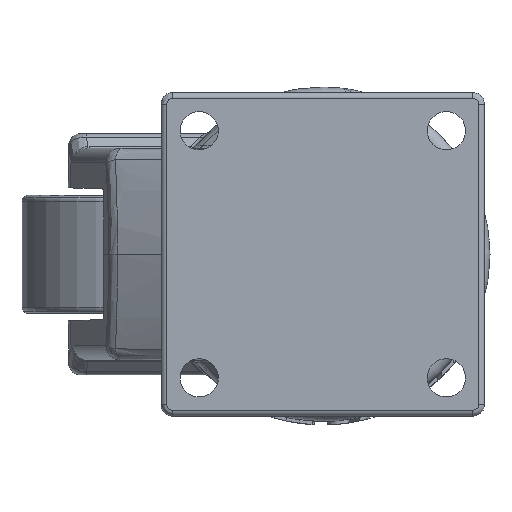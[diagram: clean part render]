
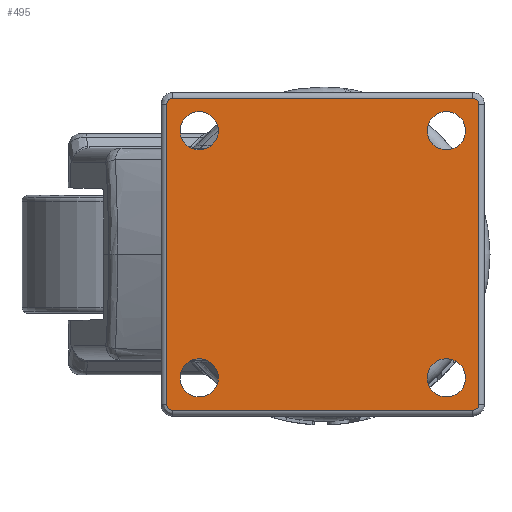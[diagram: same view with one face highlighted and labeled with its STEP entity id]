
A CAD part, front view. The second image highlights one B-rep face of the part: STEP entity #495.
In plain terms, the highlighted planar face has unit normal (0, -1, 0).
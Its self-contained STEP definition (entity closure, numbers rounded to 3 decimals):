
#86=CARTESIAN_POINT('',(-278.982,-47.669,9.463));
#87=DIRECTION('',(0.,1.,0.));
#88=DIRECTION('',(1.,0.,0.));
#89=AXIS2_PLACEMENT_3D('',#86,#87,#88);
#91=CARTESIAN_POINT('',(-278.982,-47.669,9.463));
#92=DIRECTION('',(0.,1.,0.));
#93=DIRECTION('',(-1.,0.,0.));
#94=AXIS2_PLACEMENT_3D('',#91,#92,#93);
#96=CARTESIAN_POINT('',(-236.982,-47.669,9.463));
#97=DIRECTION('',(0.,1.,0.));
#98=DIRECTION('',(1.,0.,0.));
#99=AXIS2_PLACEMENT_3D('',#96,#97,#98);
#101=CARTESIAN_POINT('',(-236.982,-47.669,9.463));
#102=DIRECTION('',(0.,1.,0.));
#103=DIRECTION('',(-1.,0.,0.));
#104=AXIS2_PLACEMENT_3D('',#101,#102,#103);
#106=CARTESIAN_POINT('',(-236.982,-47.669,
-32.537));
#107=DIRECTION('',(0.,1.,0.));
#108=DIRECTION('',(1.,0.,0.));
#109=AXIS2_PLACEMENT_3D('',#106,#107,#108);
#111=CARTESIAN_POINT('',(-236.982,-47.669,
-32.537));
#112=DIRECTION('',(0.,1.,0.));
#113=DIRECTION('',(-1.,0.,0.));
#114=AXIS2_PLACEMENT_3D('',#111,#112,#113);
#116=CARTESIAN_POINT('',(-278.982,-47.669,
-32.537));
#117=DIRECTION('',(0.,1.,0.));
#118=DIRECTION('',(1.,0.,0.));
#119=AXIS2_PLACEMENT_3D('',#116,#117,#118);
#121=CARTESIAN_POINT('',(-278.982,-47.669,
-32.537));
#122=DIRECTION('',(0.,1.,0.));
#123=DIRECTION('',(-1.,0.,0.));
#124=AXIS2_PLACEMENT_3D('',#121,#122,#123);
#126=CARTESIAN_POINT('',(-232.482,-47.669,13.963));
#127=DIRECTION('',(0.,-1.,0.));
#128=DIRECTION('',(1.,0.,0.));
#129=AXIS2_PLACEMENT_3D('',#126,#127,#128);
#131=DIRECTION('',(0.,0.,1.));
#132=VECTOR('',#131,51.);
#133=CARTESIAN_POINT('',(-231.482,-47.669,
-37.037));
#134=LINE('',#133,#132);
#135=CARTESIAN_POINT('',(-232.482,-47.669,
-37.037));
#136=DIRECTION('',(0.,-1.,0.));
#137=DIRECTION('',(0.,0.,-1.));
#138=AXIS2_PLACEMENT_3D('',#135,#136,#137);
#140=DIRECTION('',(1.,0.,0.));
#141=VECTOR('',#140,51.);
#142=CARTESIAN_POINT('',(-283.482,-47.669,
-38.037));
#143=LINE('',#142,#141);
#144=CARTESIAN_POINT('',(-283.482,-47.669,
-37.037));
#145=DIRECTION('',(0.,-1.,0.));
#146=DIRECTION('',(-1.,0.,0.));
#147=AXIS2_PLACEMENT_3D('',#144,#145,#146);
#149=DIRECTION('',(0.,0.,-1.));
#150=VECTOR('',#149,51.);
#151=CARTESIAN_POINT('',(-284.482,-47.669,13.963));
#152=LINE('',#151,#150);
#153=CARTESIAN_POINT('',(-283.482,-47.669,13.963));
#154=DIRECTION('',(0.,-1.,0.));
#155=DIRECTION('',(0.,0.,1.));
#156=AXIS2_PLACEMENT_3D('',#153,#154,#155);
#158=DIRECTION('',(-1.,0.,0.));
#159=VECTOR('',#158,51.);
#160=CARTESIAN_POINT('',(-232.482,-47.669,14.963));
#161=LINE('',#160,#159);
#310=CARTESIAN_POINT('',(-275.732,-47.669,9.463));
#311=CARTESIAN_POINT('',(-282.232,-47.669,9.463));
#312=VERTEX_POINT('',#310);
#313=VERTEX_POINT('',#311);
#314=CARTESIAN_POINT('',(-233.732,-47.669,9.463));
#315=CARTESIAN_POINT('',(-240.232,-47.669,9.463));
#316=VERTEX_POINT('',#314);
#317=VERTEX_POINT('',#315);
#318=CARTESIAN_POINT('',(-233.732,-47.669,
-32.537));
#319=CARTESIAN_POINT('',(-240.232,-47.669,
-32.537));
#320=VERTEX_POINT('',#318);
#321=VERTEX_POINT('',#319);
#322=CARTESIAN_POINT('',(-275.732,-47.669,
-32.537));
#323=CARTESIAN_POINT('',(-282.232,-47.669,
-32.537));
#324=VERTEX_POINT('',#322);
#325=VERTEX_POINT('',#323);
#342=CARTESIAN_POINT('',(-231.482,-47.669,13.963));
#343=CARTESIAN_POINT('',(-232.482,-47.669,14.963));
#344=VERTEX_POINT('',#342);
#345=VERTEX_POINT('',#343);
#350=CARTESIAN_POINT('',(-283.482,-47.669,14.963));
#351=VERTEX_POINT('',#350);
#354=CARTESIAN_POINT('',(-284.482,-47.669,13.963));
#355=VERTEX_POINT('',#354);
#358=CARTESIAN_POINT('',(-284.482,-47.669,
-37.037));
#359=VERTEX_POINT('',#358);
#362=CARTESIAN_POINT('',(-283.482,-47.669,
-38.037));
#363=VERTEX_POINT('',#362);
#366=CARTESIAN_POINT('',(-232.482,-47.669,
-38.037));
#367=VERTEX_POINT('',#366);
#370=CARTESIAN_POINT('',(-231.482,-47.669,
-37.037));
#371=VERTEX_POINT('',#370);
#450=CARTESIAN_POINT('',(-206.124,-47.669,32.463));
#451=DIRECTION('',(0.,-1.,0.));
#452=DIRECTION('',(0.,0.,-1.));
#453=AXIS2_PLACEMENT_3D('',#450,#451,#452);
#454=PLANE('',#453);
#456=ORIENTED_EDGE('',*,*,#455,.F.);
#458=ORIENTED_EDGE('',*,*,#457,.F.);
#460=ORIENTED_EDGE('',*,*,#459,.F.);
#462=ORIENTED_EDGE('',*,*,#461,.F.);
#464=ORIENTED_EDGE('',*,*,#463,.F.);
#466=ORIENTED_EDGE('',*,*,#465,.F.);
#468=ORIENTED_EDGE('',*,*,#467,.F.);
#470=ORIENTED_EDGE('',*,*,#469,.F.);
#471=EDGE_LOOP('',(#456,#458,#460,#462,#464,#466,#468,#470));
#472=FACE_OUTER_BOUND('',#471,.F.);
#474=ORIENTED_EDGE('',*,*,#473,.F.);
#476=ORIENTED_EDGE('',*,*,#475,.F.);
#477=EDGE_LOOP('',(#474,#476));
#478=FACE_BOUND('',#477,.F.);
#480=ORIENTED_EDGE('',*,*,#479,.F.);
#482=ORIENTED_EDGE('',*,*,#481,.F.);
#483=EDGE_LOOP('',(#480,#482));
#484=FACE_BOUND('',#483,.F.);
#486=ORIENTED_EDGE('',*,*,#485,.F.);
#488=ORIENTED_EDGE('',*,*,#487,.F.);
#489=EDGE_LOOP('',(#486,#488));
#490=FACE_BOUND('',#489,.F.);
#491=ORIENTED_EDGE('',*,*,#430,.F.);
#492=ORIENTED_EDGE('',*,*,#444,.F.);
#493=EDGE_LOOP('',(#491,#492));
#494=FACE_BOUND('',#493,.F.);
#90=CIRCLE('',#89,3.25);
#95=CIRCLE('',#94,3.25);
#100=CIRCLE('',#99,3.25);
#105=CIRCLE('',#104,3.25);
#110=CIRCLE('',#109,3.25);
#115=CIRCLE('',#114,3.25);
#120=CIRCLE('',#119,3.25);
#125=CIRCLE('',#124,3.25);
#130=CIRCLE('',#129,1.);
#139=CIRCLE('',#138,1.);
#148=CIRCLE('',#147,1.);
#157=CIRCLE('',#156,1.);
#430=EDGE_CURVE('',#312,#313,#90,.T.);
#444=EDGE_CURVE('',#313,#312,#95,.T.);
#455=EDGE_CURVE('',#344,#345,#130,.T.);
#457=EDGE_CURVE('',#371,#344,#134,.T.);
#459=EDGE_CURVE('',#367,#371,#139,.T.);
#461=EDGE_CURVE('',#363,#367,#143,.T.);
#463=EDGE_CURVE('',#359,#363,#148,.T.);
#465=EDGE_CURVE('',#355,#359,#152,.T.);
#467=EDGE_CURVE('',#351,#355,#157,.T.);
#469=EDGE_CURVE('',#345,#351,#161,.T.);
#473=EDGE_CURVE('',#316,#317,#100,.T.);
#475=EDGE_CURVE('',#317,#316,#105,.T.);
#479=EDGE_CURVE('',#320,#321,#110,.T.);
#481=EDGE_CURVE('',#321,#320,#115,.T.);
#485=EDGE_CURVE('',#324,#325,#120,.T.);
#487=EDGE_CURVE('',#325,#324,#125,.T.);
#495=ADVANCED_FACE('',(#472,#478,#484,#490,#494),#454,.T.);
